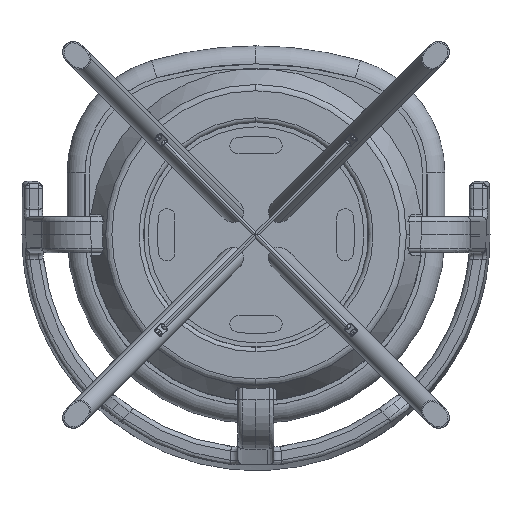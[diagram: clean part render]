
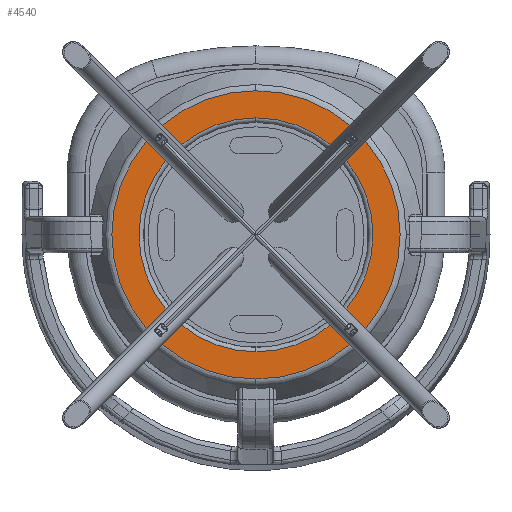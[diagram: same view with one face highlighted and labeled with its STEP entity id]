
A CAD part, front view. The second image highlights one B-rep face of the part: STEP entity #4540.
In plain terms, the highlighted planar face has unit normal (0, -1, 0).
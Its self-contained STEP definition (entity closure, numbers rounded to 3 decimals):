
#502 = ORIENTED_EDGE ( 'NONE', *, *, #2078, .F. ) ;
#988 = AXIS2_PLACEMENT_3D ( 'NONE', #3539, #3840, #30402 ) ;
#1348 = AXIS2_PLACEMENT_3D ( 'NONE', #18001, #27647, #25295 ) ;
#1367 = DIRECTION ( 'NONE',  ( 0., 1., 0. ) ) ;
#1599 = DIRECTION ( 'NONE',  ( 1., 0., 0. ) ) ;
#1925 = CARTESIAN_POINT ( 'NONE',  ( 683.25, 337., -103.25 ) ) ;
#1930 = CARTESIAN_POINT ( 'NONE',  ( 683.25, 337., 103.25 ) ) ;
#2078 = EDGE_CURVE ( 'NONE', #28562, #9932, #21530, .T. ) ;
#3539 = CARTESIAN_POINT ( 'NONE',  ( 580., 337., 0. ) ) ;
#3837 = DIRECTION ( 'NONE',  ( 1., 0., 0. ) ) ;
#3840 = DIRECTION ( 'NONE',  ( 0., 1., 0. ) ) ;
#3992 = DIRECTION ( 'NONE',  ( 0., -1., 0. ) ) ;
#4094 = EDGE_LOOP ( 'NONE', ( #28798, #18266 ) ) ;
#4540 = ADVANCED_FACE ( 'NONE', ( #17242, #24385, #10423, #17400, #26882, #9955 ), #27041, .F. ) ;
#4587 = VERTEX_POINT ( 'NONE', #6274 ) ;
#5534 = CIRCLE ( 'NONE', #988, 160.174 ) ;
#5831 = EDGE_LOOP ( 'NONE', ( #14649, #22368 ) ) ;
#6212 = CIRCLE ( 'NONE', #21928, 7.5 ) ;
#6274 = CARTESIAN_POINT ( 'NONE',  ( 675.75, 337., 103.25 ) ) ;
#6528 = DIRECTION ( 'NONE',  ( 0., 1., 0. ) ) ;
#6746 = CARTESIAN_POINT ( 'NONE',  ( 484.25, 337., -103.25 ) ) ;
#6855 = CARTESIAN_POINT ( 'NONE',  ( 580., 337., -130. ) ) ;
#7252 = CARTESIAN_POINT ( 'NONE',  ( 580., 337., 0. ) ) ;
#7780 = DIRECTION ( 'NONE',  ( 0., 1., 0. ) ) ;
#8425 = VERTEX_POINT ( 'NONE', #10573 ) ;
#8895 = CARTESIAN_POINT ( 'NONE',  ( 683.25, 337., 103.25 ) ) ;
#9048 = DIRECTION ( 'NONE',  ( 0., 1., 0. ) ) ;
#9184 = AXIS2_PLACEMENT_3D ( 'NONE', #27131, #22272, #24781 ) ;
#9359 = DIRECTION ( 'NONE',  ( 1., 0., 0. ) ) ;
#9426 = CIRCLE ( 'NONE', #22123, 130. ) ;
#9638 = EDGE_LOOP ( 'NONE', ( #27781, #25893 ) ) ;
#9932 = VERTEX_POINT ( 'NONE', #16784 ) ;
#9955 = FACE_OUTER_BOUND ( 'NONE', #21797, .T. ) ;
#10080 = AXIS2_PLACEMENT_3D ( 'NONE', #26957, #14948, #11918 ) ;
#10423 = FACE_BOUND ( 'NONE', #9638, .T. ) ;
#10573 = CARTESIAN_POINT ( 'NONE',  ( 580., 337., 160.174 ) ) ;
#10681 = EDGE_CURVE ( 'NONE', #8425, #23425, #5534, .T. ) ;
#10822 = CIRCLE ( 'NONE', #20983, 7.5 ) ;
#10930 = VERTEX_POINT ( 'NONE', #17284 ) ;
#11264 = DIRECTION ( 'NONE',  ( 0., 1., 0. ) ) ;
#11918 = DIRECTION ( 'NONE',  ( 1., 0., 0. ) ) ;
#12234 = CARTESIAN_POINT ( 'NONE',  ( 690.75, 337., 103.25 ) ) ;
#12974 = AXIS2_PLACEMENT_3D ( 'NONE', #19668, #7780, #17444 ) ;
#13421 = VERTEX_POINT ( 'NONE', #6746 ) ;
#13728 = EDGE_CURVE ( 'NONE', #13421, #10930, #21954, .T. ) ;
#13886 = AXIS2_PLACEMENT_3D ( 'NONE', #8895, #9048, #18721 ) ;
#14645 = ORIENTED_EDGE ( 'NONE', *, *, #27110, .F. ) ;
#14649 = ORIENTED_EDGE ( 'NONE', *, *, #21497, .T. ) ;
#14758 = ORIENTED_EDGE ( 'NONE', *, *, #29899, .F. ) ;
#14824 = AXIS2_PLACEMENT_3D ( 'NONE', #23959, #6528, #9359 ) ;
#14863 = DIRECTION ( 'NONE',  ( 1., 0., 0. ) ) ;
#14948 = DIRECTION ( 'NONE',  ( 0., 1., 0. ) ) ;
#15143 = CARTESIAN_POINT ( 'NONE',  ( 484.25, 337., 103.25 ) ) ;
#15200 = ORIENTED_EDGE ( 'NONE', *, *, #15629, .T. ) ;
#15629 = EDGE_CURVE ( 'NONE', #27938, #4587, #10822, .T. ) ;
#15848 = DIRECTION ( 'NONE',  ( 0., 1., 0. ) ) ;
#16006 = CARTESIAN_POINT ( 'NONE',  ( 580., 337., 0. ) ) ;
#16437 = AXIS2_PLACEMENT_3D ( 'NONE', #17218, #26702, #29384 ) ;
#16640 = AXIS2_PLACEMENT_3D ( 'NONE', #1925, #15848, #3837 ) ;
#16784 = CARTESIAN_POINT ( 'NONE',  ( 580., 337., 130. ) ) ;
#17218 = CARTESIAN_POINT ( 'NONE',  ( 580., 337., 0. ) ) ;
#17242 = FACE_BOUND ( 'NONE', #22133, .T. ) ;
#17284 = CARTESIAN_POINT ( 'NONE',  ( 469.25, 337., -103.25 ) ) ;
#17400 = FACE_BOUND ( 'NONE', #5831, .T. ) ;
#17444 = DIRECTION ( 'NONE',  ( 1., 0., 0. ) ) ;
#17851 = CARTESIAN_POINT ( 'NONE',  ( 476.75, 337., 103.25 ) ) ;
#18001 = CARTESIAN_POINT ( 'NONE',  ( 476.75, 337., -103.25 ) ) ;
#18266 = ORIENTED_EDGE ( 'NONE', *, *, #29560, .T. ) ;
#18275 = EDGE_CURVE ( 'NONE', #20774, #30162, #25399, .T. ) ;
#18508 = CIRCLE ( 'NONE', #12974, 160.174 ) ;
#18721 = DIRECTION ( 'NONE',  ( 1., 0., 0. ) ) ;
#19374 = EDGE_CURVE ( 'NONE', #30162, #20774, #6212, .T. ) ;
#19631 = DIRECTION ( 'NONE',  ( 0., 1., 0. ) ) ;
#19668 = CARTESIAN_POINT ( 'NONE',  ( 580., 337., 0. ) ) ;
#20143 = CARTESIAN_POINT ( 'NONE',  ( 469.25, 337., 103.25 ) ) ;
#20585 = AXIS2_PLACEMENT_3D ( 'NONE', #7252, #19631, #14863 ) ;
#20710 = CIRCLE ( 'NONE', #10080, 7.5 ) ;
#20774 = VERTEX_POINT ( 'NONE', #15143 ) ;
#20983 = AXIS2_PLACEMENT_3D ( 'NONE', #1930, #11264, #28500 ) ;
#21148 = EDGE_CURVE ( 'NONE', #27484, #24370, #20710, .T. ) ;
#21497 = EDGE_CURVE ( 'NONE', #24370, #27484, #21743, .T. ) ;
#21530 = CIRCLE ( 'NONE', #16437, 130. ) ;
#21600 = ORIENTED_EDGE ( 'NONE', *, *, #10681, .F. ) ;
#21609 = CIRCLE ( 'NONE', #1348, 7.5 ) ;
#21743 = CIRCLE ( 'NONE', #16640, 7.5 ) ;
#21797 = EDGE_LOOP ( 'NONE', ( #21600, #14645 ) ) ;
#21891 = EDGE_LOOP ( 'NONE', ( #15200, #26232 ) ) ;
#21928 = AXIS2_PLACEMENT_3D ( 'NONE', #17851, #1367, #25291 ) ;
#21954 = CIRCLE ( 'NONE', #14824, 7.5 ) ;
#22123 = AXIS2_PLACEMENT_3D ( 'NONE', #16006, #3992, #1599 ) ;
#22133 = EDGE_LOOP ( 'NONE', ( #502, #14758 ) ) ;
#22181 = CARTESIAN_POINT ( 'NONE',  ( 580., 337., -160.174 ) ) ;
#22272 = DIRECTION ( 'NONE',  ( 0., 1., 0. ) ) ;
#22368 = ORIENTED_EDGE ( 'NONE', *, *, #21148, .T. ) ;
#23425 = VERTEX_POINT ( 'NONE', #22181 ) ;
#23959 = CARTESIAN_POINT ( 'NONE',  ( 476.75, 337., -103.25 ) ) ;
#24370 = VERTEX_POINT ( 'NONE', #25605 ) ;
#24385 = FACE_BOUND ( 'NONE', #4094, .T. ) ;
#24781 = DIRECTION ( 'NONE',  ( 1., 0., 0. ) ) ;
#24943 = EDGE_CURVE ( 'NONE', #4587, #27938, #27024, .T. ) ;
#25291 = DIRECTION ( 'NONE',  ( 1., 0., 0. ) ) ;
#25295 = DIRECTION ( 'NONE',  ( 1., 0., 0. ) ) ;
#25399 = CIRCLE ( 'NONE', #9184, 7.5 ) ;
#25605 = CARTESIAN_POINT ( 'NONE',  ( 690.75, 337., -103.25 ) ) ;
#25893 = ORIENTED_EDGE ( 'NONE', *, *, #19374, .T. ) ;
#26215 = CARTESIAN_POINT ( 'NONE',  ( 675.75, 337., -103.25 ) ) ;
#26232 = ORIENTED_EDGE ( 'NONE', *, *, #24943, .T. ) ;
#26702 = DIRECTION ( 'NONE',  ( 0., -1., 0. ) ) ;
#26882 = FACE_BOUND ( 'NONE', #21891, .T. ) ;
#26957 = CARTESIAN_POINT ( 'NONE',  ( 683.25, 337., -103.25 ) ) ;
#27024 = CIRCLE ( 'NONE', #13886, 7.5 ) ;
#27041 = PLANE ( 'NONE',  #20585 ) ;
#27110 = EDGE_CURVE ( 'NONE', #23425, #8425, #18508, .T. ) ;
#27131 = CARTESIAN_POINT ( 'NONE',  ( 476.75, 337., 103.25 ) ) ;
#27484 = VERTEX_POINT ( 'NONE', #26215 ) ;
#27647 = DIRECTION ( 'NONE',  ( 0., 1., 0. ) ) ;
#27781 = ORIENTED_EDGE ( 'NONE', *, *, #18275, .T. ) ;
#27938 = VERTEX_POINT ( 'NONE', #12234 ) ;
#28500 = DIRECTION ( 'NONE',  ( 1., 0., 0. ) ) ;
#28562 = VERTEX_POINT ( 'NONE', #6855 ) ;
#28798 = ORIENTED_EDGE ( 'NONE', *, *, #13728, .T. ) ;
#29384 = DIRECTION ( 'NONE',  ( 1., 0., 0. ) ) ;
#29560 = EDGE_CURVE ( 'NONE', #10930, #13421, #21609, .T. ) ;
#29899 = EDGE_CURVE ( 'NONE', #9932, #28562, #9426, .T. ) ;
#30162 = VERTEX_POINT ( 'NONE', #20143 ) ;
#30402 = DIRECTION ( 'NONE',  ( 1., 0., 0. ) ) ;
